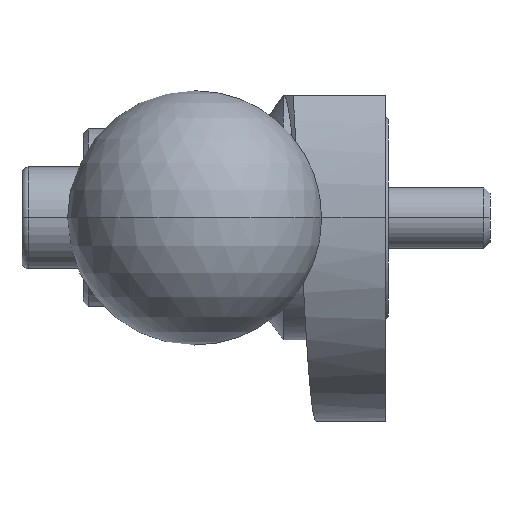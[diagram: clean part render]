
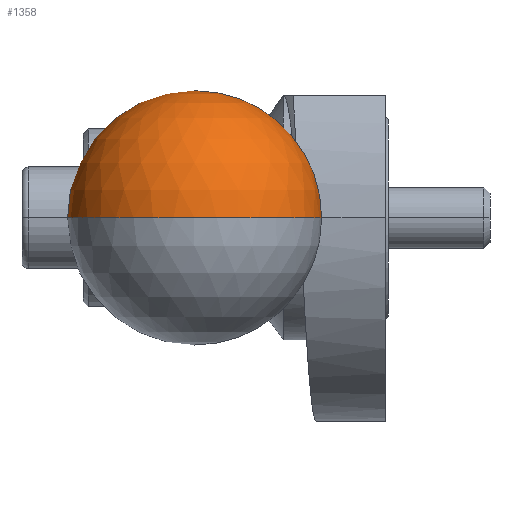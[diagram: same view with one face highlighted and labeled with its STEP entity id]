
A CAD part, left-side view. The second image highlights one B-rep face of the part: STEP entity #1358.
In plain terms, the highlighted spherical face has radius 12.5 mm.
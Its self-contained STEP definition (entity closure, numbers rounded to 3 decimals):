
#61 = ORIENTED_EDGE ( 'NONE', *, *, #290, .F. ) ;
#165 = AXIS2_PLACEMENT_3D ( 'NONE', #708, #1343, #1984 ) ;
#224 = EDGE_LOOP ( 'NONE', ( #61, #1341, #1858 ) ) ;
#229 = DIRECTION ( 'NONE',  ( 0., 1., 0. ) ) ;
#251 = SPHERICAL_SURFACE ( 'NONE', #546, 12.5 ) ;
#270 = CIRCLE ( 'NONE', #856, 12.5 ) ;
#290 = EDGE_CURVE ( 'NONE', #1040, #1648, #270, .T. ) ;
#297 = CIRCLE ( 'NONE', #561, 7.5 ) ;
#398 = CARTESIAN_POINT ( 'NONE',  ( -77.5, 16.25, 0. ) ) ;
#415 = FACE_OUTER_BOUND ( 'NONE', #224, .T. ) ;
#419 = EDGE_CURVE ( 'NONE', #1040, #1371, #642, .T. ) ;
#546 = AXIS2_PLACEMENT_3D ( 'NONE', #727, #1068, #2001 ) ;
#561 = AXIS2_PLACEMENT_3D ( 'NONE', #715, #1227, #229 ) ;
#642 = CIRCLE ( 'NONE', #165, 12.5 ) ;
#661 = DIRECTION ( 'NONE',  ( 0., 0., -1. ) ) ;
#708 = CARTESIAN_POINT ( 'NONE',  ( -87.5, 8.75, 0. ) ) ;
#715 = CARTESIAN_POINT ( 'NONE',  ( -77.5, 8.75, 0. ) ) ;
#727 = CARTESIAN_POINT ( 'NONE',  ( -87.5, 8.75, 0. ) ) ;
#827 = CARTESIAN_POINT ( 'NONE',  ( -87.5, 8.75, 0. ) ) ;
#853 = DIRECTION ( 'NONE',  ( 0., 1., 0. ) ) ;
#856 = AXIS2_PLACEMENT_3D ( 'NONE', #827, #661, #853 ) ;
#894 = CARTESIAN_POINT ( 'NONE',  ( -77.5, 1.25, 0. ) ) ;
#927 = CARTESIAN_POINT ( 'NONE',  ( -100., 8.75, 0. ) ) ;
#1040 = VERTEX_POINT ( 'NONE', #927 ) ;
#1068 = DIRECTION ( 'NONE',  ( 0., 0., -1. ) ) ;
#1227 = DIRECTION ( 'NONE',  ( 1., 0., 0. ) ) ;
#1341 = ORIENTED_EDGE ( 'NONE', *, *, #419, .T. ) ;
#1343 = DIRECTION ( 'NONE',  ( 0., 0., 1. ) ) ;
#1344 = EDGE_CURVE ( 'NONE', #1648, #1371, #297, .T. ) ;
#1358 = ADVANCED_FACE ( 'NONE', ( #415 ), #251, .T. ) ;
#1371 = VERTEX_POINT ( 'NONE', #894 ) ;
#1648 = VERTEX_POINT ( 'NONE', #398 ) ;
#1858 = ORIENTED_EDGE ( 'NONE', *, *, #1344, .F. ) ;
#1984 = DIRECTION ( 'NONE',  ( 1., 0., 0. ) ) ;
#2001 = DIRECTION ( 'NONE',  ( 0., -1., 0. ) ) ;
